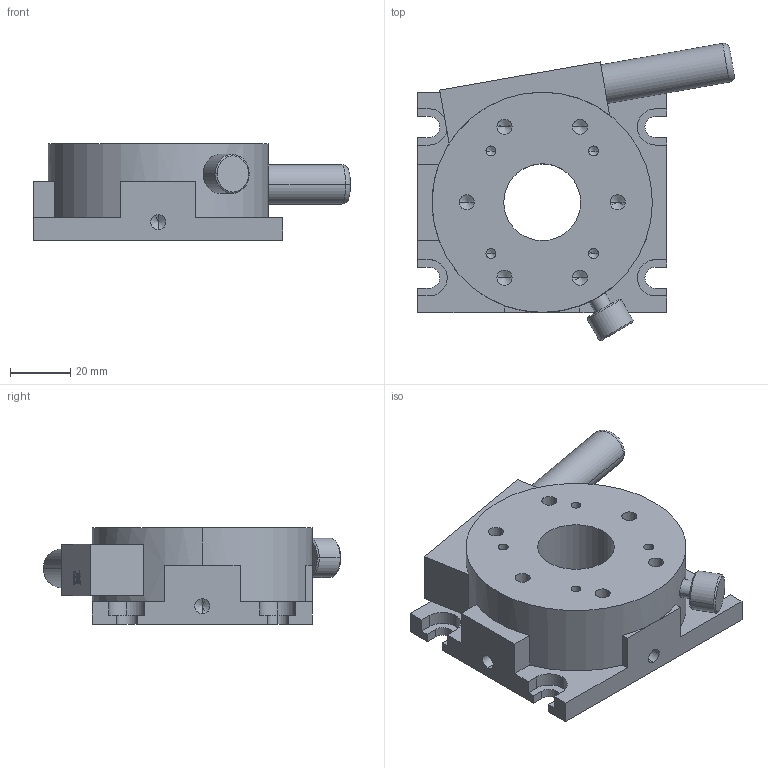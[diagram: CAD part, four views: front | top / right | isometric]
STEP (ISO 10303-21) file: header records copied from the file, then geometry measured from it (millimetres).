
FILE_DESCRIPTION (( 'STEP AP203' ), '1' );
FILE_NAME ('PT-SD204.STEP', '2022-09-03T08:23:28', ( '' ), ( '' ), 'SwSTEP 2.0', 'SolidWorks 2020', '' );
FILE_SCHEMA (( 'CONFIG_CONTROL_DESIGN' ));
Length unit declared in the file: millimetre
Products named in the file (1): PT-SD204
Bounding box: 104.97 x 98.58 x 32 mm (x, y, z)
Volume: 143184.9 mm3; surface area: 28784.9 mm2
Topology: 1 solids, 1 shells, 339 faces, 903 edges, 566 vertices
Faces by surface type: plane 155, bspline 76, cylinder 62, cone 44, torus 2
Entity records: 13412 total; most frequent: CARTESIAN_POINT 5525, ORIENTED_EDGE 1726, DIRECTION 1375, EDGE_CURVE 863, LINE 571, VECTOR 571, VERTEX_POINT 566, AXIS2_PLACEMENT_3D 402
